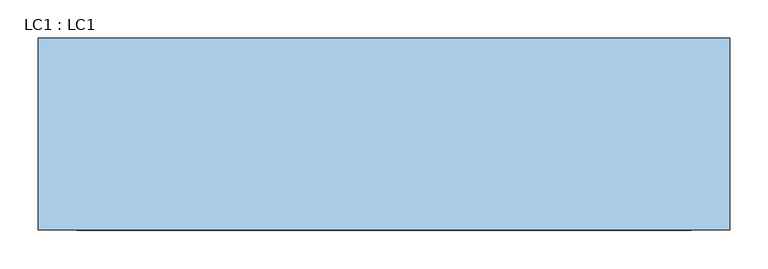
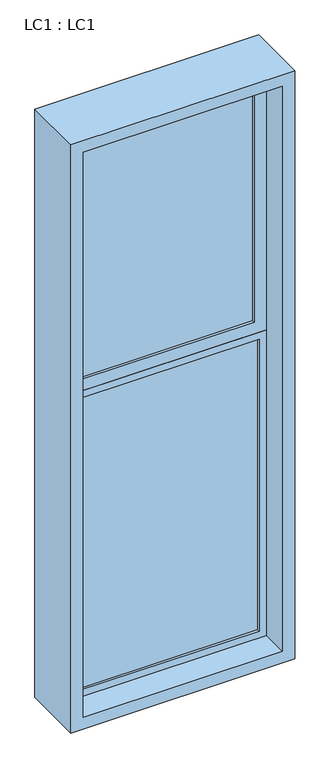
"""IFC4 building model written with IfcOpenShell, lengths in millimetres: window geometry, LC1 : LC1."""

from ifc_helpers import new_model, si_unit, frame, origin, place, context, project, spatial, polyline, outline, extrude, source, transform, mapped, element, save


def lc1_lc1_4d7fae2d(model_context):
    return source(origin(), model_context, "Body", "SweptSolid", [
        extrude(outline(polyline([(3400.0, 450.0), (3400.0, -450.0), (900.0, -450.0), (900.0, 450.0), (3400.0, 450.0)]), holes=[polyline([(3350.0, 400.0), (950.0, 400.0), (950.0, -400.0), (3350.0, -400.0), (3350.0, 400.0)])]), frame((0.0, -125.0, 0.0), z_axis=(0.0, 1.0, 0.0), x_axis=(0.0, 0.0, 1.0)), (0.0, 0.0, 1.0), 250.0),
        extrude(outline(polyline([(350.0, 5.2868922), (350.0, -4.7131078), (-350.0, -4.7131078), (-350.0, 5.2868922), (350.0, 5.2868922)])), frame((0.0, 0.0, 2300.0), z_axis=(0.0, 0.0, 1.0), x_axis=(1.0, 0.0, 0.0)), (0.0, 0.0, 1.0), 1000.0),
        extrude(outline(polyline([(370.0, 5.2868922), (370.0, -4.7131078), (-370.0, -4.7131078), (-370.0, 5.2868922), (370.0, 5.2868922)])), frame((0.0, 0.0, 980.0), z_axis=(0.0, 0.0, 1.0), x_axis=(1.0, 0.0, 0.0)), (0.0, 0.0, 1.0), 1240.0),
        extrude(outline(polyline([(3350.0, 400.0), (3350.0, -400.0), (2250.0, -400.0), (2250.0, 400.0), (3350.0, 400.0)]), holes=[polyline([(3300.0, 350.0), (2300.0, 350.0), (2300.0, -350.0), (3300.0, -350.0), (3300.0, 350.0)])]), frame((0.0, -15.0, 0.0), z_axis=(0.0, 1.0, 0.0), x_axis=(0.0, 0.0, 1.0)), (0.0, 0.0, 1.0), 30.0),
        extrude(outline(polyline([(2250.0, 400.0), (2250.0, -400.0), (950.0, -400.0), (950.0, 400.0), (2250.0, 400.0)]), holes=[polyline([(2220.0, 370.0), (980.0, 370.0), (980.0, -370.0), (2220.0, -370.0), (2220.0, 370.0)])]), frame((0.0, -15.0, 0.0), z_axis=(0.0, 1.0, 0.0), x_axis=(0.0, 0.0, 1.0)), (0.0, 0.0, 1.0), 30.0),
    ])


if __name__ == "__main__":
    model = new_model("IFC4")
    model_context = context("Model", 3, world=origin())
    ifc_project = project(units=[si_unit("LENGTHUNIT", "METRE", prefix="MILLI")], contexts=[model_context])
    site = spatial("IfcSite", under=ifc_project)
    building = spatial("IfcBuilding", under=site)
    placement = place(None, origin())
    lc1_lc1_shape = lc1_lc1_4d7fae2d(model_context)
    element("IfcWindow", 1, ObjectType="LC1 : LC1", at=placement, inside=building, context=model_context, shape_type="MappedRepresentation", body=[
        mapped(lc1_lc1_shape, transform((0.0, 0.0, 0.0), x_axis=(1.0, 0.0, 0.0), y_axis=(0.0, 1.0, 0.0), z_axis=(0.0, 0.0, 1.0))),
    ])
    save(model, "model.ifc")
